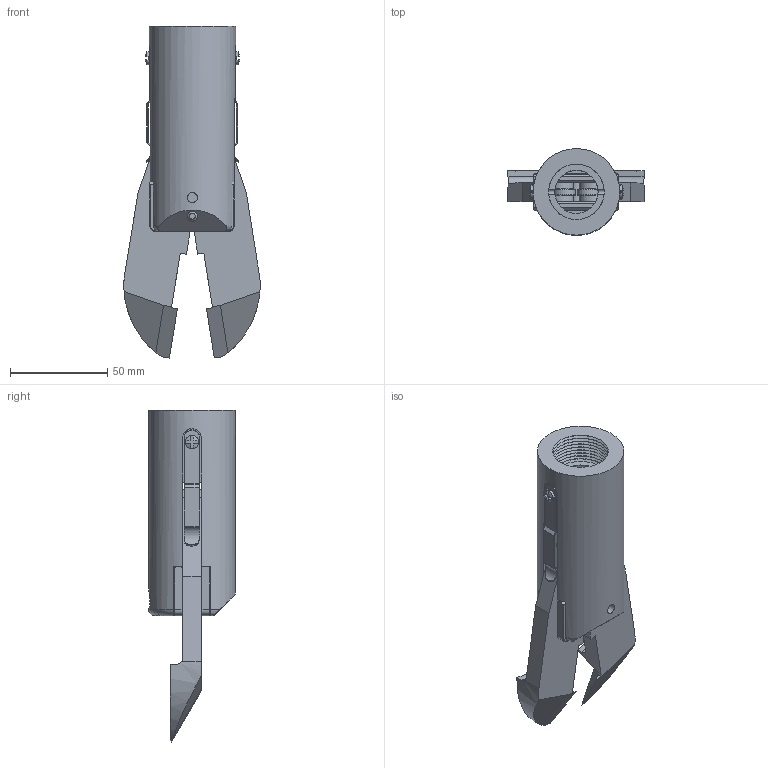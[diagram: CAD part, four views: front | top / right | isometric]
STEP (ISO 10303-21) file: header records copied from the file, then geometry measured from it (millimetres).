
FILE_DESCRIPTION (( 'STEP AP203' ), '1' );
FILE_NAME ('pgc-4-30.STEP', '2015-08-26T12:15:24', ( 'Andrew' ), ( '' ), 'SwSTEP 2.0', 'SolidWorks 2015', '' );
FILE_SCHEMA (( 'CONFIG_CONTROL_DESIGN' ));
Length unit declared in the file: inch
Products named in the file (11): PGC-4-30; 3-41; 3-19-453; pgc-4-30; 3-23; 28-01; PGC-4-30-Mirror; 3-30-A; 3-24; 3-2; 3-20
Assembly tree (16 placements, depth 2):
  pgc-4-30
    PGC-4-30-Mirror
    PGC-4-30
    3-23  x2
    3-20  x2
    3-30-A  x2
    3-19-453  x2
    3-2
    3-24
    3-41  x2
    28-01  x2
Bounding box: 69.97 x 44.45 x 170.44 mm (x, y, z)
Volume: 155802.4 mm3; surface area: 53828.4 mm2
Topology: 16 solids, 16 shells, 378 faces, 912 edges, 566 vertices
Faces by surface type: plane 163, cylinder 91, cone 82, torus 26, sphere 12, bspline 4
Full cylindrical faces by diameter (mm): 2.705 x2, 3.658 x2, 4.757 x4, 4.762 x2, 4.813 x2, 5.105 x3, 6.121 x2, 6.198 x1, 6.35 x3, 6.353 x2, 6.363 x2, 6.858 x2, 7.137 x2, 9.5 x1, 10.312 x1, 11.506 x2, 22.2 x1, 44.45 x1
Entity records: 9220 total; most frequent: CARTESIAN_POINT 1933, DIRECTION 1288, ORIENTED_EDGE 1110, EDGE_CURVE 555, AXIS2_PLACEMENT_3D 495, VERTEX_POINT 391, EDGE_LOOP 366, VECTOR 298
